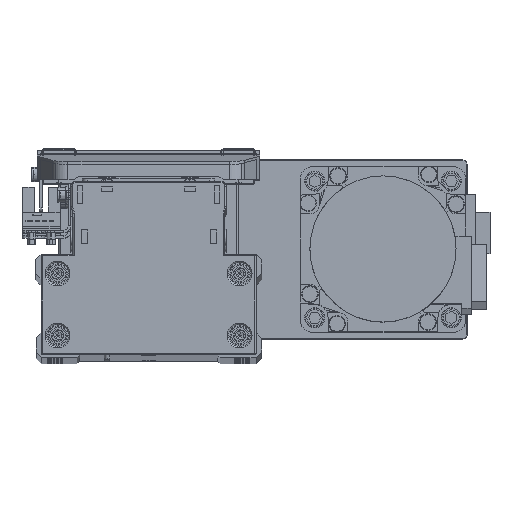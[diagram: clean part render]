
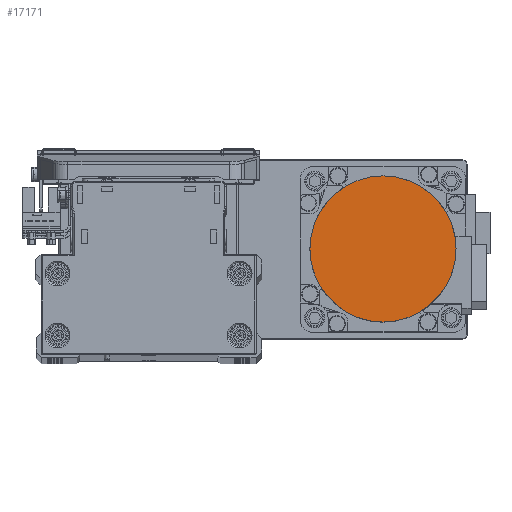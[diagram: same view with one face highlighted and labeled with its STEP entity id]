
A CAD part, top view. The second image highlights one B-rep face of the part: STEP entity #17171.
In plain terms, the highlighted planar face has unit normal (0, 0, 1) as drawn and (0, 0, -1) by its records, which use the part's own axes.
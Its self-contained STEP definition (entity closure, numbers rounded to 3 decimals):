
#174 = VERTEX_POINT ( 'NONE', #30613 ) ;
#3470 = DIRECTION ( 'NONE',  ( 0., 0., 1. ) ) ;
#3593 = EDGE_CURVE ( 'NONE', #174, #36872, #40437, .T. ) ;
#7534 = CARTESIAN_POINT ( 'NONE',  ( -26.5, 0., -109.7 ) ) ;
#9404 = AXIS2_PLACEMENT_3D ( 'NONE', #39703, #10763, #23655 ) ;
#10603 = CARTESIAN_POINT ( 'NONE',  ( 0., 0., -109.7 ) ) ;
#10763 = DIRECTION ( 'NONE',  ( 0., 0., 1. ) ) ;
#13940 = FACE_OUTER_BOUND ( 'NONE', #23471, .T. ) ;
#16334 = DIRECTION ( 'NONE',  ( -1., 0., 0. ) ) ;
#17171 = ADVANCED_FACE ( 'NONE', ( #13940 ), #26825, .F. ) ;
#19085 = AXIS2_PLACEMENT_3D ( 'NONE', #32392, #3470, #16334 ) ;
#22221 = AXIS2_PLACEMENT_3D ( 'NONE', #10603, #23478, #36371 ) ;
#23266 = ORIENTED_EDGE ( 'NONE', *, *, #3593, .F. ) ;
#23471 = EDGE_LOOP ( 'NONE', ( #37213, #23266 ) ) ;
#23478 = DIRECTION ( 'NONE',  ( 0., 0., 1. ) ) ;
#23655 = DIRECTION ( 'NONE',  ( 1., 0., 0. ) ) ;
#26825 = PLANE ( 'NONE',  #9404 ) ;
#30613 = CARTESIAN_POINT ( 'NONE',  ( 26.5, 0., -109.7 ) ) ;
#32392 = CARTESIAN_POINT ( 'NONE',  ( 0., 0., -109.7 ) ) ;
#36371 = DIRECTION ( 'NONE',  ( 1., 0., 0. ) ) ;
#36872 = VERTEX_POINT ( 'NONE', #7534 ) ;
#37213 = ORIENTED_EDGE ( 'NONE', *, *, #41545, .F. ) ;
#37311 = CIRCLE ( 'NONE', #19085, 26.5 ) ;
#39703 = CARTESIAN_POINT ( 'NONE',  ( 0., 0., -109.7 ) ) ;
#40437 = CIRCLE ( 'NONE', #22221, 26.5 ) ;
#41545 = EDGE_CURVE ( 'NONE', #36872, #174, #37311, .T. ) ;
